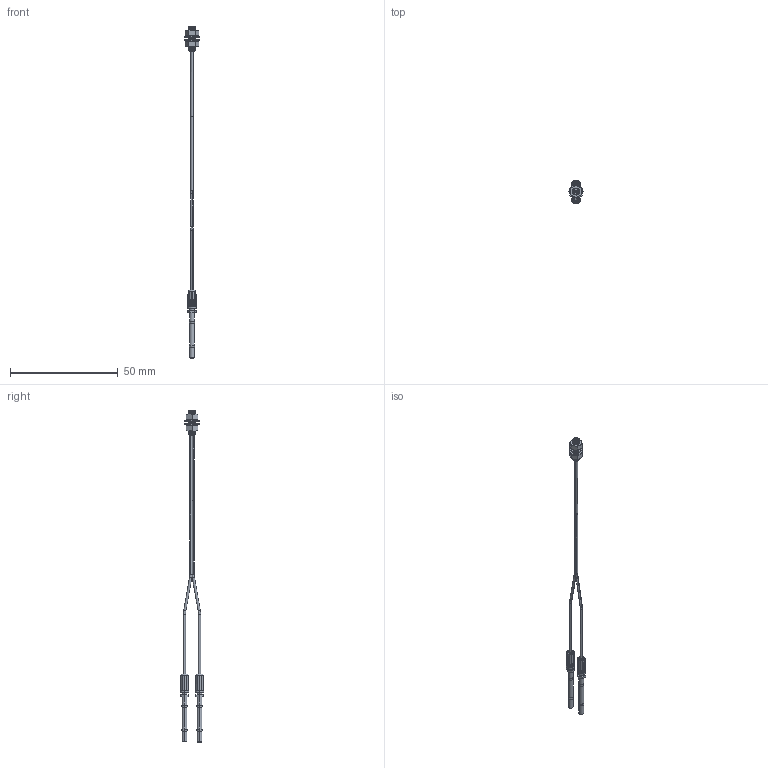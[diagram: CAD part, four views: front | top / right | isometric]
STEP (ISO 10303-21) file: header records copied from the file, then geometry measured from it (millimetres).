
FILE_DESCRIPTION (( 'STEP AP214' ), '1' );
FILE_NAME ('FD-320-06B.STEP', '2019-06-18T02:34:34', ( '' ), ( '' ), 'SwSTEP 2.0', 'SolidWorks 2018', '' );
FILE_SCHEMA (( 'AUTOMOTIVE_DESIGN' ));
Length unit declared in the file: millimetre
Products named in the file (1): FD-320-06B
Bounding box: 6.5 x 11 x 154.01 mm (x, y, z)
Volume: 715.2 mm3; surface area: 2198.4 mm2
Topology: 7 solids, 7 shells, 399 faces, 1002 edges, 630 vertices
Faces by surface type: cylinder 168, plane 159, cone 43, torus 20, bspline 9
Entity records: 18763 total; most frequent: CARTESIAN_POINT 8877, ORIENTED_EDGE 2004, DIRECTION 1820, EDGE_CURVE 1002, AXIS2_PLACEMENT_3D 723, VERTEX_POINT 630, EDGE_LOOP 424, FACE_OUTER_BOUND 399
